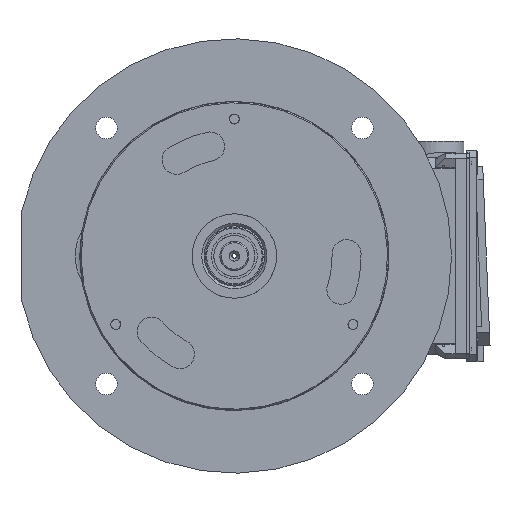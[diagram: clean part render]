
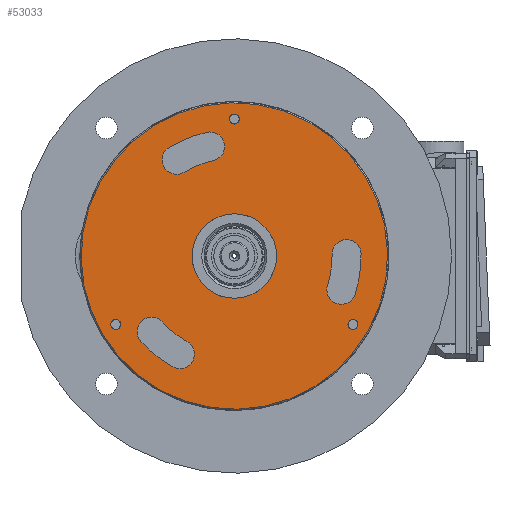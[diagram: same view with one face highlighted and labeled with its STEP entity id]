
A CAD part, front view. The second image highlights one B-rep face of the part: STEP entity #53033.
In plain terms, the highlighted planar face has unit normal (0, -1, 0).
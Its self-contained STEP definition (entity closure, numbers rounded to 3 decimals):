
#550=PLANE('',#56465);
#2940=FACE_BOUND('',#6826,.T.);
#2941=FACE_BOUND('',#6827,.T.);
#2942=FACE_BOUND('',#6828,.T.);
#2943=FACE_BOUND('',#6829,.T.);
#2944=FACE_BOUND('',#6830,.T.);
#2945=FACE_BOUND('',#6831,.T.);
#2946=FACE_BOUND('',#6832,.T.);
#3831=FACE_OUTER_BOUND('',#6825,.T.);
#6825=EDGE_LOOP('',(#37455));
#6826=EDGE_LOOP('',(#37456,#37457,#37458,#37459));
#6827=EDGE_LOOP('',(#37460,#37461,#37462,#37463));
#6828=EDGE_LOOP('',(#37464,#37465,#37466,#37467));
#6829=EDGE_LOOP('',(#37468));
#6830=EDGE_LOOP('',(#37469));
#6831=EDGE_LOOP('',(#37470));
#6832=EDGE_LOOP('',(#37471));
#10436=CIRCLE('',#56464,6.35);
#10437=CIRCLE('',#56466,0.6);
#10438=CIRCLE('',#56467,4.05);
#10439=CIRCLE('',#56468,0.6);
#10440=CIRCLE('',#56469,5.25);
#10441=CIRCLE('',#56470,0.6);
#10442=CIRCLE('',#56471,4.05);
#10443=CIRCLE('',#56472,0.6);
#10444=CIRCLE('',#56473,5.25);
#10445=CIRCLE('',#56474,0.6);
#10446=CIRCLE('',#56475,4.05);
#10447=CIRCLE('',#56476,0.6);
#10448=CIRCLE('',#56477,5.25);
#10449=CIRCLE('',#56478,1.75);
#10450=CIRCLE('',#56479,0.207);
#10451=CIRCLE('',#56480,0.207);
#10452=CIRCLE('',#56481,0.207);
#22610=VERTEX_POINT('',#79373);
#22611=VERTEX_POINT('',#79377);
#22612=VERTEX_POINT('',#79378);
#22613=VERTEX_POINT('',#79380);
#22614=VERTEX_POINT('',#79382);
#22615=VERTEX_POINT('',#79385);
#22616=VERTEX_POINT('',#79386);
#22617=VERTEX_POINT('',#79388);
#22618=VERTEX_POINT('',#79390);
#22619=VERTEX_POINT('',#79393);
#22620=VERTEX_POINT('',#79394);
#22621=VERTEX_POINT('',#79396);
#22622=VERTEX_POINT('',#79398);
#22623=VERTEX_POINT('',#79401);
#22624=VERTEX_POINT('',#79403);
#22625=VERTEX_POINT('',#79405);
#22626=VERTEX_POINT('',#79407);
#28193=EDGE_CURVE('',#22610,#22610,#10436,.T.);
#28195=EDGE_CURVE('',#22611,#22612,#10437,.T.);
#28196=EDGE_CURVE('',#22612,#22613,#10438,.T.);
#28197=EDGE_CURVE('',#22613,#22614,#10439,.T.);
#28198=EDGE_CURVE('',#22614,#22611,#10440,.T.);
#28199=EDGE_CURVE('',#22615,#22616,#10441,.T.);
#28200=EDGE_CURVE('',#22616,#22617,#10442,.T.);
#28201=EDGE_CURVE('',#22617,#22618,#10443,.T.);
#28202=EDGE_CURVE('',#22618,#22615,#10444,.T.);
#28203=EDGE_CURVE('',#22619,#22620,#10445,.T.);
#28204=EDGE_CURVE('',#22620,#22621,#10446,.T.);
#28205=EDGE_CURVE('',#22621,#22622,#10447,.T.);
#28206=EDGE_CURVE('',#22622,#22619,#10448,.T.);
#28207=EDGE_CURVE('',#22623,#22623,#10449,.T.);
#28208=EDGE_CURVE('',#22624,#22624,#10450,.T.);
#28209=EDGE_CURVE('',#22625,#22625,#10451,.T.);
#28210=EDGE_CURVE('',#22626,#22626,#10452,.T.);
#37455=ORIENTED_EDGE('',*,*,#28193,.F.);
#37456=ORIENTED_EDGE('',*,*,#28195,.T.);
#37457=ORIENTED_EDGE('',*,*,#28196,.T.);
#37458=ORIENTED_EDGE('',*,*,#28197,.T.);
#37459=ORIENTED_EDGE('',*,*,#28198,.T.);
#37460=ORIENTED_EDGE('',*,*,#28199,.T.);
#37461=ORIENTED_EDGE('',*,*,#28200,.T.);
#37462=ORIENTED_EDGE('',*,*,#28201,.T.);
#37463=ORIENTED_EDGE('',*,*,#28202,.T.);
#37464=ORIENTED_EDGE('',*,*,#28203,.T.);
#37465=ORIENTED_EDGE('',*,*,#28204,.T.);
#37466=ORIENTED_EDGE('',*,*,#28205,.T.);
#37467=ORIENTED_EDGE('',*,*,#28206,.T.);
#37468=ORIENTED_EDGE('',*,*,#28207,.T.);
#37469=ORIENTED_EDGE('',*,*,#28208,.T.);
#37470=ORIENTED_EDGE('',*,*,#28209,.T.);
#37471=ORIENTED_EDGE('',*,*,#28210,.T.);
#53033=ADVANCED_FACE('',(#3831,#2940,#2941,#2942,#2943,#2944,#2945,#2946),
#550,.F.);
#56464=AXIS2_PLACEMENT_3D('',#79374,#63179,#63180);
#56465=AXIS2_PLACEMENT_3D('',#79376,#63182,#63183);
#56466=AXIS2_PLACEMENT_3D('',#79379,#63184,#63185);
#56467=AXIS2_PLACEMENT_3D('',#79381,#63186,#63187);
#56468=AXIS2_PLACEMENT_3D('',#79383,#63188,#63189);
#56469=AXIS2_PLACEMENT_3D('',#79384,#63190,#63191);
#56470=AXIS2_PLACEMENT_3D('',#79387,#63192,#63193);
#56471=AXIS2_PLACEMENT_3D('',#79389,#63194,#63195);
#56472=AXIS2_PLACEMENT_3D('',#79391,#63196,#63197);
#56473=AXIS2_PLACEMENT_3D('',#79392,#63198,#63199);
#56474=AXIS2_PLACEMENT_3D('',#79395,#63200,#63201);
#56475=AXIS2_PLACEMENT_3D('',#79397,#63202,#63203);
#56476=AXIS2_PLACEMENT_3D('',#79399,#63204,#63205);
#56477=AXIS2_PLACEMENT_3D('',#79400,#63206,#63207);
#56478=AXIS2_PLACEMENT_3D('',#79402,#63208,#63209);
#56479=AXIS2_PLACEMENT_3D('',#79404,#63210,#63211);
#56480=AXIS2_PLACEMENT_3D('',#79406,#63212,#63213);
#56481=AXIS2_PLACEMENT_3D('',#79408,#63214,#63215);
#63179=DIRECTION('center_axis',(0.,1.,0.));
#63180=DIRECTION('ref_axis',(0.023,0.,-1.));
#63182=DIRECTION('center_axis',(0.,1.,0.));
#63183=DIRECTION('ref_axis',(-1.,0.,-0.023));
#63184=DIRECTION('center_axis',(0.,1.,0.));
#63185=DIRECTION('ref_axis',(-0.738,0.,-0.675));
#63186=DIRECTION('center_axis',(0.,-1.,0.));
#63187=DIRECTION('ref_axis',(-0.738,0.,-0.675));
#63188=DIRECTION('center_axis',(0.,1.,0.));
#63189=DIRECTION('ref_axis',(0.485,0.,0.875));
#63190=DIRECTION('center_axis',(0.,1.,0.));
#63191=DIRECTION('ref_axis',(0.738,0.,0.675));
#63192=DIRECTION('center_axis',(0.,1.,0.));
#63193=DIRECTION('ref_axis',(-0.215,0.,0.977));
#63194=DIRECTION('center_axis',(0.,-1.,0.));
#63195=DIRECTION('ref_axis',(-0.215,0.,0.977));
#63196=DIRECTION('center_axis',(0.,1.,0.));
#63197=DIRECTION('ref_axis',(0.515,0.,-0.857));
#63198=DIRECTION('center_axis',(0.,1.,0.));
#63199=DIRECTION('ref_axis',(0.215,0.,-0.977));
#63200=DIRECTION('center_axis',(0.,1.,0.));
#63201=DIRECTION('ref_axis',(0.953,0.,-0.302));
#63202=DIRECTION('center_axis',(0.,-1.,0.));
#63203=DIRECTION('ref_axis',(0.953,0.,-0.302));
#63204=DIRECTION('center_axis',(0.,1.,0.));
#63205=DIRECTION('ref_axis',(-1.,0.,-0.018));
#63206=DIRECTION('center_axis',(0.,1.,0.));
#63207=DIRECTION('ref_axis',(-0.953,0.,0.302));
#63208=DIRECTION('center_axis',(0.,1.,0.));
#63209=DIRECTION('ref_axis',(0.023,0.,-1.));
#63210=DIRECTION('center_axis',(0.,1.,0.));
#63211=DIRECTION('ref_axis',(-0.023,0.,
1.));
#63212=DIRECTION('center_axis',(0.,1.,0.));
#63213=DIRECTION('ref_axis',(0.877,0.,-0.48));
#63214=DIRECTION('center_axis',(0.,1.,0.));
#63215=DIRECTION('ref_axis',(-0.854,0.,-0.519));
#79373=CARTESIAN_POINT('',(-0.144,-31.401,6.348));
#79374=CARTESIAN_POINT('Origin',(0.,-31.401,
0.));
#79376=CARTESIAN_POINT('Origin',(0.,-31.401,
0.));
#79377=CARTESIAN_POINT('',(-3.874,-31.401,-3.543));
#79378=CARTESIAN_POINT('',(-2.989,-31.401,-2.733));
#79379=CARTESIAN_POINT('Origin',(-3.432,-31.401,-3.138));
#79380=CARTESIAN_POINT('',(-1.963,-31.401,-3.542));
#79381=CARTESIAN_POINT('Origin',(0.,-31.401,
0.));
#79382=CARTESIAN_POINT('',(-2.545,-31.401,-4.592));
#79383=CARTESIAN_POINT('Origin',(-2.254,-31.401,-4.067));
#79384=CARTESIAN_POINT('Origin',(0.,-31.401,
0.));
#79385=CARTESIAN_POINT('',(-1.131,-31.401,5.127));
#79386=CARTESIAN_POINT('',(-0.873,-31.401,3.955));
#79387=CARTESIAN_POINT('Origin',(-1.002,-31.401,4.541));
#79388=CARTESIAN_POINT('',(-2.086,-31.401,3.471));
#79389=CARTESIAN_POINT('Origin',(0.,-31.401,
0.));
#79390=CARTESIAN_POINT('',(-2.704,-31.401,4.5));
#79391=CARTESIAN_POINT('Origin',(-2.395,-31.401,3.986));
#79392=CARTESIAN_POINT('Origin',(0.,-31.401,
0.));
#79393=CARTESIAN_POINT('',(5.005,-31.401,-1.584));
#79394=CARTESIAN_POINT('',(3.861,-31.401,-1.222));
#79395=CARTESIAN_POINT('Origin',(4.433,-31.401,-1.403));
#79396=CARTESIAN_POINT('',(4.049,-31.401,0.071));
#79397=CARTESIAN_POINT('Origin',(0.,-31.401,
0.));
#79398=CARTESIAN_POINT('',(5.249,-31.401,0.092));
#79399=CARTESIAN_POINT('Origin',(4.649,-31.401,0.082));
#79400=CARTESIAN_POINT('Origin',(0.,-31.401,
0.));
#79401=CARTESIAN_POINT('',(-0.04,-31.401,1.75));
#79402=CARTESIAN_POINT('Origin',(0.,-31.401,
0.));
#79403=CARTESIAN_POINT('',(-4.91,-31.401,-3.044));
#79404=CARTESIAN_POINT('Origin',(-4.915,-31.401,-2.838));
#79405=CARTESIAN_POINT('',(-0.181,-31.401,5.774));
#79406=CARTESIAN_POINT('Origin',(0.,-31.401,
5.675));
#79407=CARTESIAN_POINT('',(5.091,-31.401,-2.73));
#79408=CARTESIAN_POINT('Origin',(4.915,-31.401,-2.838));
